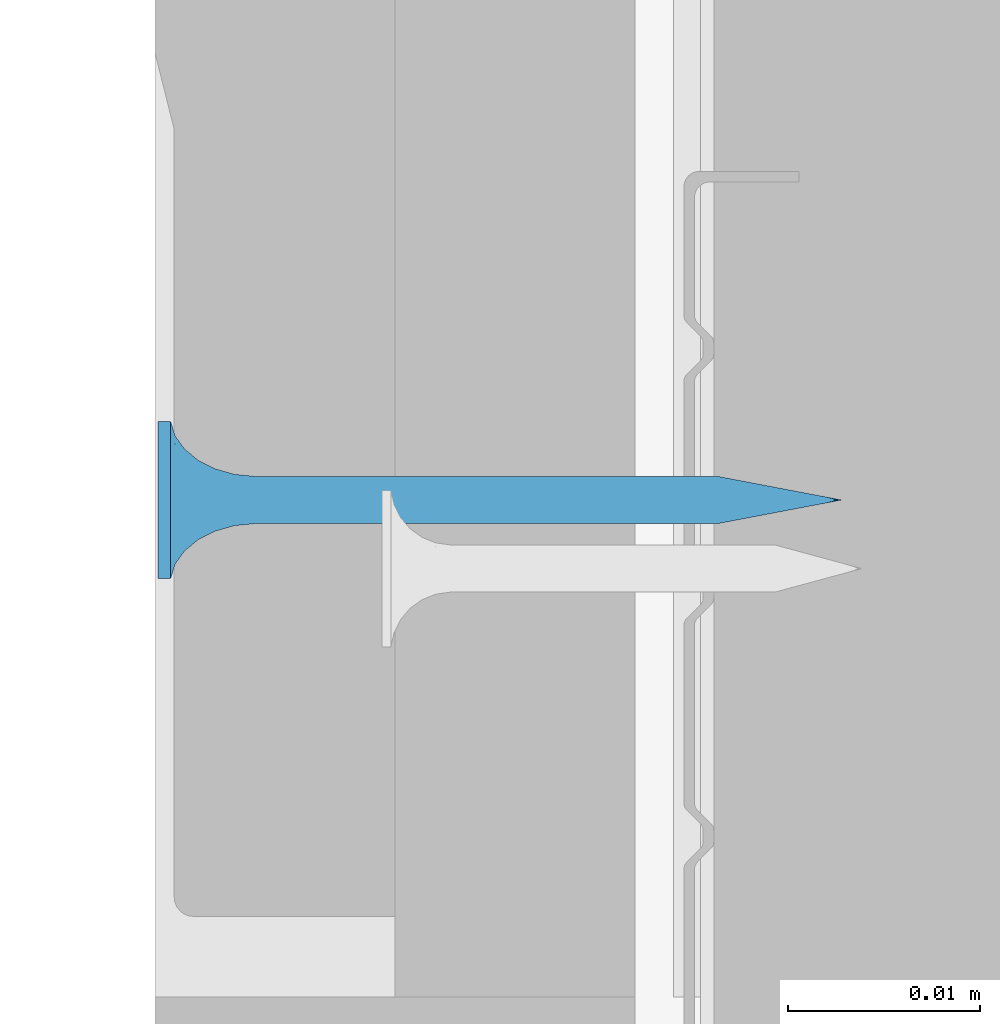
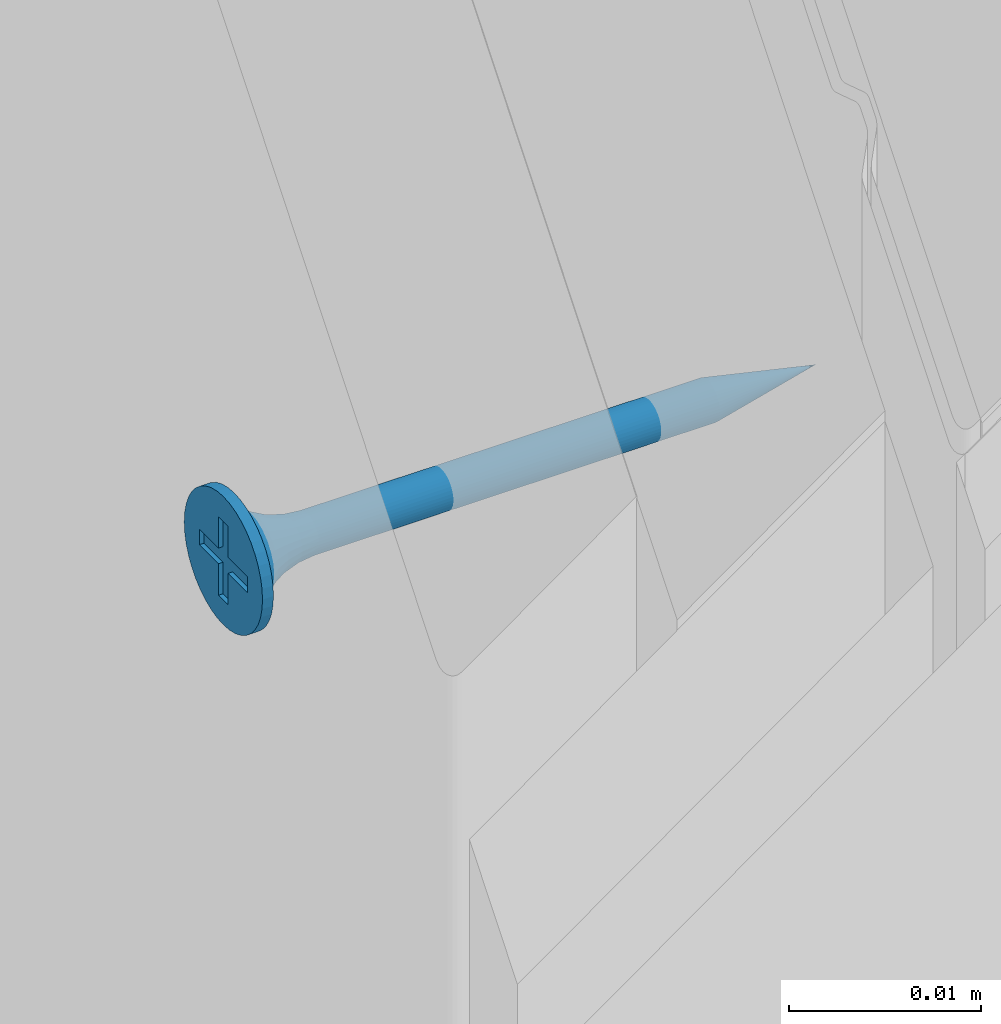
# One storey, part 41 of 92: 1 wall.
"""IFC2X3 building model written with IfcOpenShell, lengths in millimetres."""

from ifc_helpers import new_model, si_unit, frame, origin_with_axes, place, context, subcontext, project, spatial, faceted_brep, material, type_object, element, save


model = new_model("IFC2X3")

# Units and contexts
model_context = context("Model", 3, world=origin_with_axes())
body_context = subcontext(model_context, "Body", "Model", "MODEL_VIEW")
ifc_project = project(units=[si_unit("LENGTHUNIT", "METRE", prefix="MILLI"), si_unit("AREAUNIT", "SQUARE_METRE"), si_unit("VOLUMEUNIT", "CUBIC_METRE")], contexts=[model_context])

# Site, building, storey
site_placement = place(None, origin_with_axes())
site = spatial("IfcSite", under=ifc_project, at=site_placement, Name="Default Site", CompositionType="ELEMENT")
building_placement = place(site_placement, origin_with_axes())
building = spatial("IfcBuilding", under=site, at=building_placement, Name="Default Building", CompositionType="ELEMENT")
storey_placement = place(building_placement, origin_with_axes())
storey = spatial("IfcBuildingStorey", under=building, at=storey_placement, Name="Default Building Storey", CompositionType="ELEMENT", Elevation=0.0)

# Wall
ifc_material = material(Name="Undefined2")
wall_type = type_object("IfcWallType", Name="Wkręt RIGIPS TN 35#31", PredefinedType="NOTDEFINED")
wall_placement = place(storey_placement, frame((4833.413128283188, 6.443031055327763, -113.80620193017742), z_axis=(0.0, 0.0, 1.0), x_axis=(6.938893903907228e-17, -1.0, 0.0)))
element("IfcWall", 1, at=wall_placement, inside=storey, type_object=wall_type, material=ifc_material, Name="Wkręt RIGIPS TN 35", context=body_context, shape_type="Brep", body=[
    faceted_brep([(-141.48753293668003, -4832.598052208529, 555.1619773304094), (-141.48753293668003, -4833.259714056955, 555.1619773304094), (-141.5377465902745, -4833.259714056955, 555.8000000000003), (-141.5377465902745, -4832.598052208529, 555.8000000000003), (-141.33812900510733, -4832.598052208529, 554.539664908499), (-141.33812900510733, -4833.259714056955, 554.539664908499), (-141.09321328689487, -4832.598052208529, 553.948386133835), (-141.09321328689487, -4833.259714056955, 553.948386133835), (-140.75881656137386, -4832.598052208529, 553.4027002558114), (-140.75881656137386, -4833.259714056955, 553.4027002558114), (-140.34317265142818, -4833.259714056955, 552.9160436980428), (-140.45417279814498, -4832.598052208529, 553.031490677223), (-139.8565160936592, -4833.259714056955, 552.5003997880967), (-140.1080097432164, -4832.598052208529, 552.6986613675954), (-139.72512626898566, -4832.598052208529, 552.4088260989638), (-139.31083021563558, -4833.259714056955, 552.1660030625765), (-139.31083021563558, -4832.598052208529, 552.1660030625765), (-138.71955144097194, -4833.259714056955, 551.9210873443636), (-138.87086516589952, -4832.598052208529, 551.9735585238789), (-138.41133029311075, -4832.598052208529, 551.8341602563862), (-138.0972390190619, -4833.259714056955, 551.7716834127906), (-137.9385961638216, -4832.598052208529, 551.74974052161), (-137.45921634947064, -4833.259714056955, 551.7214697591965), (-137.45921634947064, -4832.598052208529, 551.7214697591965), (-136.82119367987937, -4832.598052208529, 551.7716834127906), (-136.82119367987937, -4833.259714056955, 551.7716834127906), (-136.19888125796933, -4832.598052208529, 551.9210873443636), (-136.19888125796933, -4833.259714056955, 551.9210873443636), (-135.6076024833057, -4832.598052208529, 552.1660030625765), (-135.6076024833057, -4833.259714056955, 552.1660030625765), (-135.06191660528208, -4832.598052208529, 552.5003997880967), (-135.06191660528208, -4833.259714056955, 552.5003997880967), (-134.57526004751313, -4832.598052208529, 552.9160436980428), (-134.57526004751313, -4833.259714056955, 552.9160436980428), (-134.1596161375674, -4832.598052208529, 553.4027002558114), (-134.1596161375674, -4833.259714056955, 553.4027002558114), (-133.8252194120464, -4832.598052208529, 553.948386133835), (-133.8252194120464, -4833.259714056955, 553.948386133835), (-133.58030369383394, -4832.598052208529, 554.539664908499), (-133.58030369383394, -4833.259714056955, 554.539664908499), (-133.3806861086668, -4833.259714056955, 555.8000000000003), (-133.3806861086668, -4832.598052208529, 555.8000000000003), (-133.43089976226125, -4832.598052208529, 556.4380226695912), (-133.43089976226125, -4833.259714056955, 556.4380226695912), (-133.43089976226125, -4833.259714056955, 555.1619773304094), (-133.43089976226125, -4832.598052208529, 555.1619773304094), (-133.58030369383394, -4832.598052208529, 557.0603350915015), (-133.58030369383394, -4833.259714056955, 557.0603350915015), (-133.8252194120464, -4832.598052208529, 557.6516138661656), (-133.8252194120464, -4833.259714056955, 557.6516138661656), (-134.1596161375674, -4832.598052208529, 558.1972997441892), (-134.1596161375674, -4833.259714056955, 558.1972997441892), (-134.57526004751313, -4832.598052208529, 558.6839563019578), (-134.57526004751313, -4833.259714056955, 558.6839563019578), (-135.06191660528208, -4832.598052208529, 559.0996002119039), (-135.06191660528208, -4833.259714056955, 559.0996002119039), (-135.6076024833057, -4832.598052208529, 559.4339969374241), (-135.6076024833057, -4833.259714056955, 559.4339969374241), (-136.19888125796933, -4832.598052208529, 559.678912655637), (-136.19888125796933, -4833.259714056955, 559.678912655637), (-136.82119367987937, -4832.598052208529, 559.82831658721), (-136.82119367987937, -4833.259714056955, 559.82831658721), (-137.45921634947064, -4832.598052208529, 559.8785302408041), (-137.45921634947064, -4833.259714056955, 559.8785302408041), (-138.0972390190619, -4832.598052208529, 559.82831658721), (-138.0972390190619, -4833.259714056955, 559.82831658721), (-138.71955144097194, -4832.598052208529, 559.678912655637), (-138.71955144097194, -4833.259714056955, 559.678912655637), (-139.31083021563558, -4832.598052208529, 559.4339969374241), (-139.31083021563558, -4833.259714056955, 559.4339969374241), (-139.8565160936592, -4832.598052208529, 559.0996002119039), (-139.8565160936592, -4833.259714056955, 559.0996002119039), (-140.34317265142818, -4832.598052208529, 558.6839563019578), (-140.34317265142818, -4833.259714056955, 558.6839563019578), (-140.75881656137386, -4832.598052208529, 558.1972997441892), (-140.75881656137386, -4833.259714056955, 558.1972997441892), (-141.09321328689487, -4832.598052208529, 557.6516138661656), (-141.09321328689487, -4833.259714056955, 557.6516138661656), (-141.33812900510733, -4832.598052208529, 557.0603350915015), (-141.33812900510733, -4833.259714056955, 557.0603350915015), (-141.48753293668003, -4832.598052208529, 556.4380226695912), (-141.48753293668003, -4833.259714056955, 556.4380226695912), (-137.65172779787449, -4828.206294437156, 554.5845305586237), (-137.45921634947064, -4828.206294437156, 554.5693795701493), (-137.8060615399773, -4829.281368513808, 554.505556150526), (-137.45921634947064, -4829.281368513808, 554.4598930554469), (-137.83949898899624, -4828.206294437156, 554.6296104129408), (-138.12926982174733, -4829.281368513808, 554.6394333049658), (-138.01790634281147, -4828.206294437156, 554.7035091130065), (-138.1825568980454, -4828.206294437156, 554.8044072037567), (-138.40681506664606, -4829.281368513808, 554.8524012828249), (-138.3293964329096, -4828.206294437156, 554.9298199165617), (-138.45480914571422, -4828.206294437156, 555.0766594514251), (-138.6197830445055, -4829.281368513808, 555.1299465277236), (-138.5557072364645, -4828.206294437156, 555.2413100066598), (-138.753660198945, -4829.281368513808, 555.453154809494), (-138.62960593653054, -4828.206294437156, 555.4197173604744), (-138.67468579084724, -4828.206294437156, 555.6074885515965), (-138.79932329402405, -4829.281368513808, 555.7999999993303), (-138.68983677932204, -4828.206294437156, 555.8000000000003), (-138.67468579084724, -4828.206294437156, 555.9925114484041), (-138.753660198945, -4829.281368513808, 556.1468451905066), (-138.62960593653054, -4828.206294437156, 556.1802826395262), (-138.6197830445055, -4829.281368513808, 556.470053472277), (-138.5557072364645, -4828.206294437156, 556.3586899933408), (-138.45480914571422, -4828.206294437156, 556.5233405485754), (-138.40681506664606, -4829.281368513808, 556.7475987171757), (-138.3293964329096, -4828.206294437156, 556.6701800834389), (-138.1825568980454, -4828.206294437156, 556.7955927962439), (-138.12926982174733, -4829.281368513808, 556.9605666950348), (-138.01790634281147, -4828.206294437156, 556.8964908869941), (-137.8060615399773, -4829.281368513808, 557.0944438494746), (-137.83949898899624, -4828.206294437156, 556.9703895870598), (-137.65172779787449, -4828.206294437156, 557.0154694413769), (-137.45921634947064, -4829.281368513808, 557.1401069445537), (-137.45921634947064, -4828.206294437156, 557.0306204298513), (-137.26670490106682, -4828.206294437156, 557.0154694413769), (-137.11237115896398, -4829.281368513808, 557.0944438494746), (-137.07893370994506, -4828.206294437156, 556.9703895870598), (-136.78916287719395, -4829.281368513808, 556.9605666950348), (-136.9005263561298, -4828.206294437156, 556.8964908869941), (-136.7358758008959, -4828.206294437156, 556.7955927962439), (-136.5116176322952, -4829.281368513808, 556.7475987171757), (-136.58903626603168, -4828.206294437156, 556.6701800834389), (-136.46362355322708, -4828.206294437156, 556.5233405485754), (-136.2986496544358, -4829.281368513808, 556.470053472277), (-136.36272546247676, -4828.206294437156, 556.3586899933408), (-136.16477249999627, -4829.281368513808, 556.1468451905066), (-136.28882676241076, -4828.206294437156, 556.1802826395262), (-136.24374690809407, -4828.206294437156, 555.9925114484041), (-136.11910940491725, -4829.281368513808, 555.7999999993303), (-136.22859591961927, -4828.206294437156, 555.8000000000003), (-136.24374690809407, -4828.206294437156, 555.6074885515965), (-136.16477249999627, -4829.281368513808, 555.453154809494), (-136.28882676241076, -4828.206294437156, 555.4197173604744), (-136.2986496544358, -4829.281368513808, 555.1299465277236), (-136.36272546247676, -4828.206294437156, 555.2413100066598), (-136.46362355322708, -4828.206294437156, 555.0766594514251), (-136.5116176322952, -4829.281368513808, 554.8524012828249), (-136.58903626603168, -4828.206294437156, 554.9298199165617), (-136.7358758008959, -4828.206294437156, 554.8044072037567), (-136.78916287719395, -4829.281368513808, 554.6394333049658), (-136.9005263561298, -4828.206294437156, 554.7035091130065), (-137.11237115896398, -4829.281368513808, 554.505556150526), (-137.07893370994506, -4828.206294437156, 554.6296104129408), (-137.26670490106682, -4828.206294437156, 554.5845305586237), (-137.45921634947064, -4830.288222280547, 554.1737111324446), (-137.88013087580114, -4830.288222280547, 554.2291255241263), (-138.2723607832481, -4830.288222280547, 554.3915925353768), (-138.60917621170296, -4830.288222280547, 554.650040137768), (-138.8676238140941, -4830.288222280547, 554.9868555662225), (-139.03009082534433, -4830.288222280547, 555.3790854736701), (-139.08550521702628, -4830.288222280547, 555.7999999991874), (-139.03009082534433, -4830.288222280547, 556.2209145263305), (-138.8676238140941, -4830.288222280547, 556.6131444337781), (-138.60917621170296, -4830.288222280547, 556.9499598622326), (-138.2723607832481, -4830.288222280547, 557.2084074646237), (-137.88013087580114, -4830.288222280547, 557.3708744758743), (-137.45921634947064, -4830.288222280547, 557.426288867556), (-137.03830182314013, -4830.288222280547, 557.3708744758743), (-136.64607191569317, -4830.288222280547, 557.2084074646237), (-136.30925648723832, -4830.288222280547, 556.9499598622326), (-136.05080888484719, -4830.288222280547, 556.6131444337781), (-135.88834187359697, -4830.288222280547, 556.2209145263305), (-135.832927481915, -4830.288222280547, 555.7999999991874), (-135.88834187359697, -4830.288222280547, 555.3790854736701), (-136.05080888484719, -4830.288222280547, 554.9868555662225), (-136.30925648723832, -4830.288222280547, 554.650040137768), (-136.64607191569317, -4830.288222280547, 554.3915925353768), (-137.03830182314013, -4830.288222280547, 554.2291255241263), (-137.45921634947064, -4831.168773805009, 553.7273430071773), (-137.99565943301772, -4831.168773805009, 553.7979670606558), (-138.49554484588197, -4831.168773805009, 554.0050264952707), (-138.92480608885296, -4831.168773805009, 554.3344102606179), (-139.25418985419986, -4831.168773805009, 554.763671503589), (-139.46124928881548, -4831.168773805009, 555.2635569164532), (-139.53187334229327, -4831.168773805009, 555.799999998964), (-139.46124928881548, -4831.168773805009, 556.3364430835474), (-139.25418985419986, -4831.168773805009, 556.8363284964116), (-138.92480608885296, -4831.168773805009, 557.2655897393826), (-138.49554484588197, -4831.168773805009, 557.5949735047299), (-137.99565943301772, -4831.168773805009, 557.8020329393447), (-137.45921634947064, -4831.168773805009, 557.8726569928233), (-136.92277326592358, -4831.168773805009, 557.8020329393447), (-136.42288785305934, -4831.168773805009, 557.5949735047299), (-135.9936266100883, -4831.168773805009, 557.2655897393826), (-135.6642428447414, -4831.168773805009, 556.8363284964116), (-135.45718341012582, -4831.168773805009, 556.3364430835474), (-135.386559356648, -4831.168773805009, 555.799999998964), (-135.45718341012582, -4831.168773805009, 555.2635569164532), (-135.6642428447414, -4831.168773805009, 554.763671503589), (-135.9936266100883, -4831.168773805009, 554.3344102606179), (-136.42288785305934, -4831.168773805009, 554.0050264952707), (-136.92277326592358, -4831.168773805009, 553.7979670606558), (-137.45921634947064, -4831.872222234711, 553.1465392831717), (-138.14598252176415, -4831.872222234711, 553.2369539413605), (-138.78594670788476, -4831.872222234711, 553.5020355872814), (-139.33549641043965, -4831.872222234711, 553.9237199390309), (-139.75718076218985, -4831.872222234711, 554.4732696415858), (-140.02226240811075, -4831.872222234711, 555.1132338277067), (-140.11267706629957, -4831.872222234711, 555.7999999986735), (-140.02226240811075, -4831.872222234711, 556.4867661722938), (-139.75718076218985, -4831.872222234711, 557.1267303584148), (-139.33549641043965, -4831.872222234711, 557.6762800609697), (-138.78594670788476, -4831.872222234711, 558.0979644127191), (-138.14598252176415, -4831.872222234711, 558.3630460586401), (-137.45921634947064, -4831.872222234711, 558.4534607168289), (-136.77245017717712, -4831.872222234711, 558.3630460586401), (-136.13248599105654, -4831.872222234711, 558.0979644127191), (-135.58293628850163, -4831.872222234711, 557.6762800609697), (-135.16125193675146, -4831.872222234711, 557.1267303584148), (-134.89617029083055, -4831.872222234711, 556.4867661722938), (-134.8057556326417, -4831.872222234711, 555.7999999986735), (-134.89617029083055, -4831.872222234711, 555.1132338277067), (-135.16125193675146, -4831.872222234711, 554.4732696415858), (-135.58293628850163, -4831.872222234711, 553.9237199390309), (-136.13248599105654, -4831.872222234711, 553.5020355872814), (-136.77245017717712, -4831.872222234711, 553.2369539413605), (-137.45921634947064, -4832.357990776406, 552.4648055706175), (-138.3224281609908, -4832.357990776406, 552.5784495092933), (-139.12681356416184, -4832.357990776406, 552.9116369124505), (-139.8175549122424, -4832.357990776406, 553.4416614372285), (-140.34757943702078, -4832.357990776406, 554.1324027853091), (-140.680766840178, -4832.357990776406, 554.9367881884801), (-140.79441077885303, -4832.357990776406, 555.7999999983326), (-140.680766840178, -4832.357990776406, 556.6632118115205), (-140.34757943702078, -4832.357990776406, 557.4675972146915), (-139.8175549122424, -4832.357990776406, 558.1583385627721), (-139.12681356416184, -4832.357990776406, 558.6883630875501), (-138.3224281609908, -4832.357990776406, 559.0215504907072), (-137.45921634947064, -4832.357990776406, 559.1351944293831), (-136.5960045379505, -4832.357990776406, 559.0215504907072), (-135.79161913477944, -4832.357990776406, 558.6883630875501), (-135.10087778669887, -4832.357990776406, 558.1583385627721), (-134.5708532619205, -4832.357990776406, 557.4675972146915), (-134.23766585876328, -4832.357990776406, 556.6632118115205), (-134.12402192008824, -4832.357990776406, 555.7999999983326), (-134.23766585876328, -4832.357990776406, 554.9367881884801), (-134.5708532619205, -4832.357990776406, 554.1324027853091), (-135.10087778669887, -4832.357990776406, 553.4416614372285), (-135.79161913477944, -4832.357990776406, 552.9116369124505), (-136.5960045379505, -4832.357990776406, 552.5784495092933), (-138.67468579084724, -4804.0937578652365, 555.6074885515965), (-138.68983677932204, -4804.0937578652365, 555.8000000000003), (-138.62960593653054, -4804.0937578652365, 555.4197173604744), (-138.5557072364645, -4804.0937578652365, 555.2413100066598), (-138.45480914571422, -4804.0937578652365, 555.0766594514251), (-138.3293964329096, -4804.0937578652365, 554.9298199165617), (-138.1825568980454, -4804.0937578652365, 554.8044072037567), (-138.01790634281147, -4804.0937578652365, 554.7035091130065), (-137.83949898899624, -4804.0937578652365, 554.6296104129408), (-137.65172779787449, -4804.0937578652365, 554.5845305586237), (-137.45921634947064, -4804.0937578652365, 554.5693795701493), (-137.26670490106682, -4804.0937578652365, 554.5845305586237), (-137.07893370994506, -4804.0937578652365, 554.6296104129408), (-136.9005263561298, -4804.0937578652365, 554.7035091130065), (-136.7358758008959, -4804.0937578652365, 554.8044072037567), (-136.58903626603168, -4804.0937578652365, 554.9298199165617), (-136.46362355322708, -4804.0937578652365, 555.0766594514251), (-136.36272546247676, -4804.0937578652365, 555.2413100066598), (-136.28882676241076, -4804.0937578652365, 555.4197173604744), (-136.22859591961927, -4804.0937578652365, 555.8000000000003), (-136.24374690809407, -4804.0937578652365, 555.9925114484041), (-136.24374690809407, -4804.0937578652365, 555.6074885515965), (-136.28882676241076, -4804.0937578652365, 556.1802826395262), (-136.36272546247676, -4804.0937578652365, 556.3586899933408), (-136.46362355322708, -4804.0937578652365, 556.5233405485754), (-136.58903626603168, -4804.0937578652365, 556.6701800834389), (-136.7358758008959, -4804.0937578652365, 556.7955927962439), (-136.9005263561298, -4804.0937578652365, 556.8964908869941), (-137.07893370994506, -4804.0937578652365, 556.9703895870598), (-137.26670490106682, -4804.0937578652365, 557.0154694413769), (-137.45921634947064, -4804.0937578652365, 557.0306204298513), (-137.65172779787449, -4804.0937578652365, 557.0154694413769), (-137.83949898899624, -4804.0937578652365, 556.9703895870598), (-138.01790634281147, -4804.0937578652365, 556.8964908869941), (-138.1825568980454, -4804.0937578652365, 556.7955927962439), (-138.3293964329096, -4804.0937578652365, 556.6701800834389), (-138.45480914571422, -4804.0937578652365, 556.5233405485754), (-138.5557072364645, -4804.0937578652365, 556.3586899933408), (-138.62960593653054, -4804.0937578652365, 556.1802826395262), (-138.67468579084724, -4804.0937578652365, 555.9925114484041), (-137.45921634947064, -4797.627062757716, 555.8000000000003), (-139.95921629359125, -4833.259714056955, 555.2999999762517), (-139.95921629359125, -4833.259714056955, 556.3000000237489), (-137.95921637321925, -4833.259714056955, 556.3000000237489), (-137.95921637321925, -4833.259714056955, 558.2999999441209), (-136.95921632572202, -4833.259714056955, 558.2999999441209), (-136.95921632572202, -4833.259714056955, 556.3000000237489), (-134.95921640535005, -4833.259714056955, 556.3000000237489), (-134.95921640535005, -4833.259714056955, 555.2999999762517), (-136.95921632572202, -4833.259714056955, 555.2999999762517), (-136.95921632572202, -4833.259714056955, 553.3000000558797), (-137.95921637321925, -4833.259714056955, 553.3000000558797), (-137.95921637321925, -4833.259714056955, 555.2999999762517), (-136.95921632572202, -4832.988378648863, 558.2999999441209), (-137.95921637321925, -4832.988378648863, 558.2999999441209), (-137.95921637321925, -4832.988378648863, 556.3000000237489), (-139.95921629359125, -4832.988378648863, 556.3000000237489), (-139.95921629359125, -4832.988378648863, 555.2999999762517), (-137.95921637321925, -4832.988378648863, 555.2999999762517), (-137.95921637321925, -4832.988378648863, 553.3000000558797), (-136.95921632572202, -4832.988378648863, 553.3000000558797), (-136.95921632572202, -4832.988378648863, 555.2999999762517), (-134.95921640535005, -4832.988378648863, 555.2999999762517), (-134.95921640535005, -4832.988378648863, 556.3000000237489), (-136.95921632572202, -4832.988378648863, 556.3000000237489)], [[[0, 1, 2, 3]], [[1, 0, 4, 5]], [[5, 4, 6, 7]], [[8, 9, 7, 6]], [[8, 10, 9]], [[8, 11, 10]], [[12, 11, 13]], [[12, 10, 11]], [[13, 14, 12]], [[14, 15, 12]], [[14, 16, 15]], [[17, 16, 18]], [[17, 15, 16]], [[18, 19, 17]], [[20, 19, 21]], [[20, 17, 19]], [[21, 22, 20]], [[21, 23, 22]], [[24, 25, 22, 23]], [[25, 24, 26, 27]], [[27, 26, 28, 29]], [[30, 31, 29, 28]], [[31, 30, 32, 33]], [[34, 35, 33, 32]], [[35, 34, 36, 37]], [[37, 36, 38, 39]], [[40, 41, 42, 43]], [[44, 45, 41, 40]], [[45, 44, 39, 38]], [[43, 42, 46, 47]], [[47, 46, 48, 49]], [[50, 51, 49, 48]], [[51, 50, 52, 53]], [[54, 55, 53, 52]], [[55, 54, 56, 57]], [[57, 56, 58, 59]], [[60, 61, 59, 58]], [[61, 60, 62, 63]], [[64, 65, 63, 62]], [[65, 64, 66, 67]], [[67, 66, 68, 69]], [[70, 71, 69, 68]], [[71, 70, 72, 73]], [[74, 75, 73, 72]], [[75, 74, 76, 77]], [[77, 76, 78, 79]], [[80, 81, 79, 78]], [[81, 80, 3, 2]], [[82, 83, 84]], [[83, 85, 84]], [[84, 86, 82]], [[84, 87, 88, 86]], [[89, 88, 87]], [[87, 90, 89]], [[90, 91, 89]], [[92, 91, 93]], [[91, 90, 93]], [[93, 94, 92]], [[93, 95, 96, 94]], [[97, 96, 95]], [[95, 98, 97]], [[98, 99, 97]], [[100, 99, 101]], [[99, 98, 101]], [[101, 102, 100]], [[101, 103, 104, 102]], [[105, 104, 103]], [[103, 106, 105]], [[106, 107, 105]], [[108, 107, 109]], [[107, 106, 109]], [[109, 110, 108]], [[109, 111, 112, 110]], [[113, 112, 111]], [[111, 114, 113]], [[114, 115, 113]], [[116, 115, 117]], [[115, 114, 117]], [[117, 118, 116]], [[117, 119, 120, 118]], [[121, 120, 119]], [[119, 122, 121]], [[122, 123, 121]], [[124, 123, 125]], [[123, 122, 125]], [[125, 126, 124]], [[125, 127, 128, 126]], [[129, 128, 127]], [[127, 130, 129]], [[130, 131, 129]], [[132, 131, 133]], [[131, 130, 133]], [[133, 134, 132]], [[133, 135, 136, 134]], [[137, 136, 135]], [[135, 138, 137]], [[138, 139, 137]], [[140, 139, 141]], [[139, 138, 141]], [[141, 142, 140]], [[141, 143, 144, 142]], [[145, 144, 143]], [[143, 85, 145]], [[85, 83, 145]], [[146, 147, 84, 85]], [[84, 147, 148, 87]], [[87, 148, 149, 90]], [[90, 149, 150, 93]], [[93, 150, 151, 95]], [[95, 151, 152, 98]], [[98, 152, 153, 101]], [[101, 153, 154, 103]], [[103, 154, 155, 106]], [[106, 155, 156, 109]], [[109, 156, 157, 111]], [[111, 157, 158, 114]], [[114, 158, 159, 117]], [[117, 159, 160, 119]], [[119, 160, 161, 122]], [[122, 161, 162, 125]], [[125, 162, 163, 127]], [[127, 163, 164, 130]], [[130, 164, 165, 133]], [[133, 165, 166, 135]], [[135, 166, 167, 138]], [[138, 167, 168, 141]], [[141, 168, 169, 143]], [[143, 169, 146, 85]], [[170, 171, 147, 146]], [[147, 171, 172, 148]], [[148, 172, 173, 149]], [[149, 173, 174, 150]], [[150, 174, 175, 151]], [[151, 175, 176, 152]], [[152, 176, 177, 153]], [[153, 177, 178, 154]], [[154, 178, 179, 155]], [[155, 179, 180, 156]], [[156, 180, 181, 157]], [[157, 181, 182, 158]], [[158, 182, 183, 159]], [[159, 183, 184, 160]], [[160, 184, 185, 161]], [[161, 185, 186, 162]], [[162, 186, 187, 163]], [[163, 187, 188, 164]], [[164, 188, 189, 165]], [[165, 189, 190, 166]], [[166, 190, 191, 167]], [[167, 191, 192, 168]], [[168, 192, 193, 169]], [[169, 193, 170, 146]], [[194, 195, 171, 170]], [[171, 195, 196, 172]], [[172, 196, 197, 173]], [[173, 197, 198, 174]], [[174, 198, 199, 175]], [[175, 199, 200, 176]], [[176, 200, 201, 177]], [[177, 201, 202, 178]], [[178, 202, 203, 179]], [[179, 203, 204, 180]], [[180, 204, 205, 181]], [[181, 205, 206, 182]], [[182, 206, 207, 183]], [[183, 207, 208, 184]], [[184, 208, 209, 185]], [[185, 209, 210, 186]], [[186, 210, 211, 187]], [[187, 211, 212, 188]], [[188, 212, 213, 189]], [[189, 213, 214, 190]], [[190, 214, 215, 191]], [[191, 215, 216, 192]], [[192, 216, 217, 193]], [[193, 217, 194, 170]], [[21, 19, 218]], [[19, 219, 218]], [[218, 23, 21]], [[218, 219, 195, 194]], [[18, 16, 219]], [[16, 220, 219]], [[219, 19, 18]], [[195, 219, 220, 196]], [[13, 11, 221]], [[14, 13, 220]], [[13, 221, 220]], [[220, 16, 14]], [[196, 220, 221, 197]], [[8, 6, 222]], [[222, 221, 8]], [[221, 11, 8]], [[197, 221, 222, 198]], [[4, 223, 222, 6]], [[198, 222, 223, 199]], [[0, 3, 223]], [[3, 224, 223]], [[223, 4, 0]], [[199, 223, 224, 200]], [[80, 78, 225]], [[225, 224, 80]], [[224, 3, 80]], [[200, 224, 225, 201]], [[78, 76, 226, 225]], [[201, 225, 226, 202]], [[74, 72, 226]], [[72, 227, 226]], [[226, 76, 74]], [[202, 226, 227, 203]], [[70, 68, 228]], [[228, 227, 70]], [[227, 72, 70]], [[203, 227, 228, 204]], [[68, 66, 229, 228]], [[204, 228, 229, 205]], [[64, 62, 229]], [[62, 230, 229]], [[229, 66, 64]], [[205, 229, 230, 206]], [[60, 58, 231]], [[231, 230, 60]], [[230, 62, 60]], [[206, 230, 231, 207]], [[58, 56, 232, 231]], [[207, 231, 232, 208]], [[54, 52, 232]], [[52, 233, 232]], [[232, 56, 54]], [[208, 232, 233, 209]], [[50, 48, 234]], [[234, 233, 50]], [[233, 52, 50]], [[209, 233, 234, 210]], [[48, 46, 235, 234]], [[210, 234, 235, 211]], [[42, 41, 235]], [[41, 236, 235]], [[235, 46, 42]], [[211, 235, 236, 212]], [[45, 38, 237]], [[237, 236, 45]], [[236, 41, 45]], [[212, 236, 237, 213]], [[36, 238, 237, 38]], [[213, 237, 238, 214]], [[34, 32, 238]], [[32, 239, 238]], [[238, 36, 34]], [[214, 238, 239, 215]], [[30, 28, 240]], [[240, 239, 30]], [[239, 32, 30]], [[215, 239, 240, 216]], [[26, 241, 240, 28]], [[216, 240, 241, 217]], [[217, 241, 218, 194]], [[24, 23, 241]], [[23, 218, 241]], [[241, 26, 24]], [[242, 97, 99, 243]], [[97, 242, 244, 96]], [[96, 244, 245, 94]], [[246, 92, 94, 245]], [[92, 246, 247, 91]], [[248, 89, 91, 247]], [[89, 248, 249, 88]], [[88, 249, 250, 86]], [[251, 82, 86, 250]], [[82, 251, 252, 83]], [[253, 145, 83, 252]], [[145, 253, 254, 144]], [[144, 254, 255, 142]], [[256, 140, 142, 255]], [[140, 256, 257, 139]], [[258, 137, 139, 257]], [[137, 258, 259, 136]], [[136, 259, 260, 134]], [[131, 261, 262, 129]], [[132, 263, 261, 131]], [[263, 132, 134, 260]], [[129, 262, 264, 128]], [[128, 264, 265, 126]], [[266, 124, 126, 265]], [[124, 266, 267, 123]], [[268, 121, 123, 267]], [[121, 268, 269, 120]], [[120, 269, 270, 118]], [[271, 116, 118, 270]], [[116, 271, 272, 115]], [[273, 113, 115, 272]], [[113, 273, 274, 112]], [[112, 274, 275, 110]], [[276, 108, 110, 275]], [[108, 276, 277, 107]], [[278, 105, 107, 277]], [[105, 278, 279, 104]], [[104, 279, 280, 102]], [[281, 100, 102, 280]], [[100, 281, 243, 99]], [[282, 244, 242]], [[242, 243, 282]], [[282, 245, 244]], [[282, 247, 246]], [[246, 245, 282]], [[282, 249, 248]], [[248, 247, 282]], [[282, 250, 249]], [[282, 252, 251]], [[251, 250, 282]], [[282, 254, 253]], [[253, 252, 282]], [[282, 255, 254]], [[282, 257, 256]], [[256, 255, 282]], [[282, 259, 258]], [[258, 257, 282]], [[282, 260, 259]], [[282, 261, 263]], [[263, 260, 282]], [[282, 264, 262]], [[262, 261, 282]], [[282, 265, 264]], [[282, 267, 266]], [[266, 265, 282]], [[282, 269, 268]], [[268, 267, 282]], [[282, 270, 269]], [[282, 272, 271]], [[271, 270, 282]], [[282, 274, 273]], [[273, 272, 282]], [[282, 275, 274]], [[282, 277, 276]], [[276, 275, 282]], [[282, 279, 278]], [[278, 277, 282]], [[282, 280, 279]], [[282, 243, 281]], [[281, 280, 282]], [[75, 77, 79, 81, 2, 1, 5, 7, 9, 10, 12, 15, 17, 20, 22, 25, 27, 29, 31, 33, 35, 37, 39, 44, 40, 43, 47, 49, 51, 53, 55, 57, 59, 61, 63, 65, 67, 69, 71, 73], [283, 284, 285, 286, 287, 288, 289, 290, 291, 292, 293, 294]], [[295, 296, 297, 298, 299, 300, 301, 302, 303, 304, 305, 306]], [[303, 291, 290, 304]], [[304, 290, 289, 305]], [[305, 289, 288, 306]], [[306, 288, 287, 295]], [[295, 287, 286, 296]], [[296, 286, 285, 297]], [[297, 285, 284, 298]], [[298, 284, 283, 299]], [[299, 283, 294, 300]], [[300, 294, 293, 301]], [[301, 293, 292, 302]], [[302, 292, 291, 303]]]),
])

save(model, "model.ifc")
